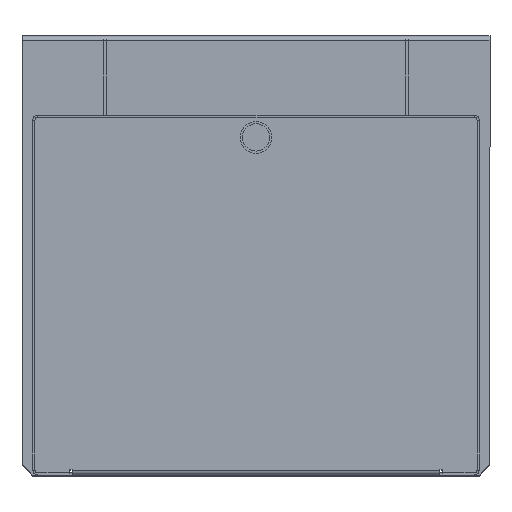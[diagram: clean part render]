
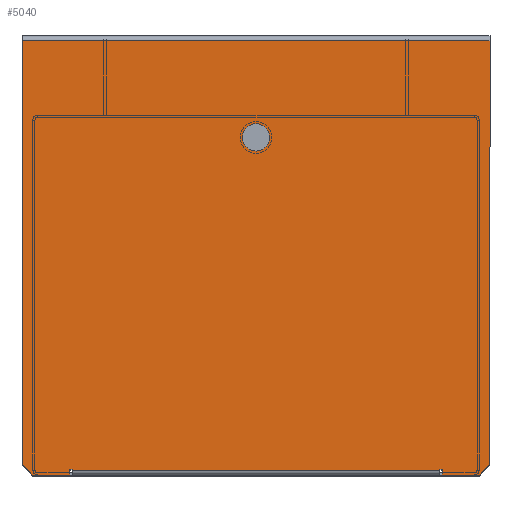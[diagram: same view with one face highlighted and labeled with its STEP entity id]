
A CAD part, top view. The second image highlights one B-rep face of the part: STEP entity #5040.
In plain terms, the highlighted planar face has unit normal (0, 0, 1).
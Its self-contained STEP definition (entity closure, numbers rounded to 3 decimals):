
#3798=CARTESIAN_POINT('',(-20.631,-46.386,408.5));
#3799=VERTEX_POINT('',#3798);
#3951=CARTESIAN_POINT('',(234.369,-46.386,408.5));
#3952=VERTEX_POINT('',#3951);
#4037=CARTESIAN_POINT('',(-20.631,-46.386,408.5));
#4038=DIRECTION('',(1.0,0.0,0.0));
#4039=VECTOR('',#4038,255.0);
#4040=LINE('',#4037,#4039);
#4041=EDGE_CURVE('',#3799,#3952,#4040,.T.);
#4052=CARTESIAN_POINT('',(236.369,-49.886,408.5));
#4053=VERTEX_POINT('',#4052);
#4062=CARTESIAN_POINT('',(236.369,-45.886,408.5));
#4063=VERTEX_POINT('',#4062);
#4064=CARTESIAN_POINT('',(236.369,-49.886,408.5));
#4065=DIRECTION('',(0.0,1.0,0.0));
#4066=VECTOR('',#4065,4.);
#4067=LINE('',#4064,#4066);
#4068=EDGE_CURVE('',#4053,#4063,#4067,.T.);
#4093=CARTESIAN_POINT('',(234.369,-45.886,408.5));
#4094=VERTEX_POINT('',#4093);
#4095=CARTESIAN_POINT('',(236.369,-45.886,408.5));
#4096=DIRECTION('',(-1.0,0.0,0.0));
#4097=VECTOR('',#4096,2.0);
#4098=LINE('',#4095,#4097);
#4099=EDGE_CURVE('',#4063,#4094,#4098,.T.);
#4130=CARTESIAN_POINT('',(234.369,-46.386,408.5));
#4131=DIRECTION('',(0.0,1.0,0.0));
#4132=VECTOR('',#4131,0.5);
#4133=LINE('',#4130,#4132);
#4134=EDGE_CURVE('',#3952,#4094,#4133,.T.);
#4155=CARTESIAN_POINT('',(-22.631,-45.886,408.5));
#4156=VERTEX_POINT('',#4155);
#4163=CARTESIAN_POINT('',(-22.631,-49.886,408.5));
#4164=VERTEX_POINT('',#4163);
#4165=CARTESIAN_POINT('',(-22.631,-49.886,408.5));
#4166=DIRECTION('',(0.0,1.0,0.0));
#4167=VECTOR('',#4166,4.0);
#4168=LINE('',#4165,#4167);
#4169=EDGE_CURVE('',#4164,#4156,#4168,.T.);
#4194=CARTESIAN_POINT('',(-20.631,-45.886,408.5));
#4195=VERTEX_POINT('',#4194);
#4202=CARTESIAN_POINT('',(-22.631,-45.886,408.5));
#4203=DIRECTION('',(1.0,0.0,0.0));
#4204=VECTOR('',#4203,2.0);
#4205=LINE('',#4202,#4204);
#4206=EDGE_CURVE('',#4156,#4195,#4205,.T.);
#4216=CARTESIAN_POINT('',(-20.631,-46.386,408.5));
#4217=DIRECTION('',(0.0,1.0,0.0));
#4218=VECTOR('',#4217,0.5);
#4219=LINE('',#4216,#4218);
#4220=EDGE_CURVE('',#3799,#4195,#4219,.T.);
#4268=CARTESIAN_POINT('',(269.369,251.614,408.5));
#4269=VERTEX_POINT('',#4268);
#4439=CARTESIAN_POINT('',(-55.631,251.614,408.5));
#4440=VERTEX_POINT('',#4439);
#4659=CARTESIAN_POINT('',(269.369,251.614,408.5));
#4660=DIRECTION('',(-1.0,0.0,0.0));
#4661=VECTOR('',#4660,325.0);
#4662=LINE('',#4659,#4661);
#4663=EDGE_CURVE('',#4269,#4440,#4662,.T.);
#4822=CARTESIAN_POINT('',(-48.131,-49.886,408.5));
#4823=VERTEX_POINT('',#4822);
#4824=CARTESIAN_POINT('',(-55.631,-42.386,408.5));
#4825=VERTEX_POINT('',#4824);
#4826=CARTESIAN_POINT('',(-48.131,-49.886,408.5));
#4827=DIRECTION('',(-0.707,0.707,0.0));
#4828=VECTOR('',#4827,10.607);
#4829=LINE('',#4826,#4828);
#4830=EDGE_CURVE('',#4823,#4825,#4829,.T.);
#4869=CARTESIAN_POINT('',(-55.631,251.614,408.5));
#4870=DIRECTION('',(0.0,-1.0,0.0));
#4871=VECTOR('',#4870,294.0);
#4872=LINE('',#4869,#4871);
#4873=EDGE_CURVE('',#4440,#4825,#4872,.T.);
#4885=CARTESIAN_POINT('',(-48.131,-49.886,408.5));
#4886=DIRECTION('',(1.0,0.0,0.0));
#4887=VECTOR('',#4886,25.5);
#4888=LINE('',#4885,#4887);
#4889=EDGE_CURVE('',#4823,#4164,#4888,.T.);
#4963=CARTESIAN_POINT('',(261.869,-49.886,408.5));
#4964=VERTEX_POINT('',#4963);
#4972=CARTESIAN_POINT('',(269.369,-42.386,408.5));
#4973=VERTEX_POINT('',#4972);
#4980=CARTESIAN_POINT('',(261.869,-49.886,408.5));
#4981=DIRECTION('',(0.707,0.707,0.0));
#4982=VECTOR('',#4981,10.607);
#4983=LINE('',#4980,#4982);
#4984=EDGE_CURVE('',#4964,#4973,#4983,.T.);
#4989=CARTESIAN_POINT('',(-55.631,255.114,408.5));
#4990=DIRECTION('',(0.0,0.0,1.0));
#4991=DIRECTION('',(0.0,-1.0,0.0));
#4992=AXIS2_PLACEMENT_3D('',#4989,#4990,#4991);
#4993=PLANE('',#4992);
#4994=ORIENTED_EDGE('',*,*,#4663,.T.);
#4995=ORIENTED_EDGE('',*,*,#4873,.T.);
#4996=ORIENTED_EDGE('',*,*,#4830,.F.);
#4997=ORIENTED_EDGE('',*,*,#4889,.T.);
#4998=ORIENTED_EDGE('',*,*,#4169,.T.);
#4999=ORIENTED_EDGE('',*,*,#4206,.T.);
#5000=ORIENTED_EDGE('',*,*,#4220,.F.);
#5001=ORIENTED_EDGE('',*,*,#4041,.T.);
#5002=ORIENTED_EDGE('',*,*,#4134,.T.);
#5003=ORIENTED_EDGE('',*,*,#4099,.F.);
#5004=ORIENTED_EDGE('',*,*,#4068,.F.);
#5005=CARTESIAN_POINT('',(236.369,-49.886,408.5));
#5006=DIRECTION('',(1.0,0.0,0.0));
#5007=VECTOR('',#5006,25.5);
#5008=LINE('',#5005,#5007);
#5009=EDGE_CURVE('',#4053,#4964,#5008,.T.);
#5010=ORIENTED_EDGE('',*,*,#5009,.T.);
#5011=ORIENTED_EDGE('',*,*,#4984,.T.);
#5012=CARTESIAN_POINT('',(269.369,251.614,408.5));
#5013=DIRECTION('',(0.0,-1.0,0.0));
#5014=VECTOR('',#5013,294.0);
#5015=LINE('',#5012,#5014);
#5016=EDGE_CURVE('',#4269,#4973,#5015,.T.);
#5017=ORIENTED_EDGE('',*,*,#5016,.F.);
#5018=EDGE_LOOP('',(#4994,#4995,#4996,#4997,#4998,#4999,#5000,#5001,#5002,#5003,#5004,#5010,#5011,#5017));
#5019=FACE_OUTER_BOUND('',#5018,.T.);
#5020=CARTESIAN_POINT('',(106.869,194.114,408.5));
#5021=VERTEX_POINT('',#5020);
#5022=CARTESIAN_POINT('',(106.869,175.114,408.5));
#5023=VERTEX_POINT('',#5022);
#5024=CARTESIAN_POINT('',(106.869,184.614,408.5));
#5025=DIRECTION('',(0.0,0.0,1.0));
#5026=DIRECTION('',(0.,-1.0,0.0));
#5027=AXIS2_PLACEMENT_3D('',#5024,#5025,#5026);
#5028=CIRCLE('',#5027,9.5);
#5029=EDGE_CURVE('',#5021,#5023,#5028,.T.);
#5030=ORIENTED_EDGE('',*,*,#5029,.F.);
#5031=CARTESIAN_POINT('',(106.869,184.614,408.5));
#5032=DIRECTION('',(0.0,0.0,1.0));
#5033=DIRECTION('',(0.,-1.0,0.0));
#5034=AXIS2_PLACEMENT_3D('',#5031,#5032,#5033);
#5035=CIRCLE('',#5034,9.5);
#5036=EDGE_CURVE('',#5023,#5021,#5035,.T.);
#5037=ORIENTED_EDGE('',*,*,#5036,.F.);
#5038=EDGE_LOOP('',(#5030,#5037));
#5039=FACE_BOUND('',#5038,.T.);
#5040=ADVANCED_FACE('',(#5019,#5039),#4993,.T.);
